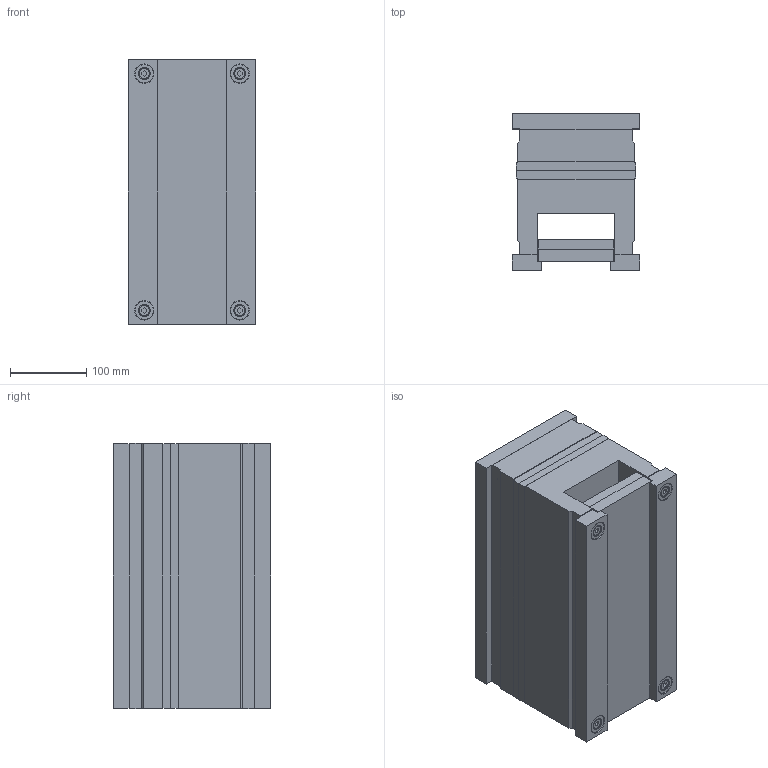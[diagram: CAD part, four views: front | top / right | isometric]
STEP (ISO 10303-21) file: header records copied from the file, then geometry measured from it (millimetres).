
FILE_DESCRIPTION (( 'STEP AP214' ), '1' );
FILE_NAME ('1565.STEP', '2002-07-10T07:50:36', ( 'Simcha Kilim' ), ( 'K. Plastics Engineering' ), 'SwSTEP 2.0', 'SolidWorks 2002025', '' );
FILE_SCHEMA (( 'AUTOMOTIVE_DESIGN' ));
Length unit declared in the file: millimetre
Products named in the file (12): 1565; ALMO (ejector plate)_1565; ALMO (hot half)_1565; ALMO (screw)_M8x90; ALMO (guide pin)_Ø14; ALMO (ejector return plate)_1565; ALMO (ejector half)_1565; ALMO (guide bush)_Ø15; ALMO (guide bush)_Ø14; ALMO (guide pin)_Ø15; ALMO (key plate)_Ø14; ALMO (screw)_M8x50
Assembly tree (28 placements, depth 2):
  1565
    ALMO (guide pin)_Ø14  x3
    ALMO (guide bush)_Ø14  x3
    ALMO (screw)_M8x50  x4
    ALMO (hot half)_1565
    ALMO (key plate)_Ø14  x8
    ALMO (screw)_M8x90  x4
    ALMO (ejector return plate)_1565
    ALMO (guide bush)_Ø15
    ALMO (guide pin)_Ø15
    ALMO (ejector plate)_1565
    ALMO (ejector half)_1565
Bounding box: 167 x 206 x 348 mm (x, y, z)
Volume: 9397675.5 mm3; surface area: 772233.5 mm2
Topology: 28 solids, 28 shells, 706 faces, 1496 edges, 924 vertices
Faces by surface type: cylinder 260, plane 254, cone 192
Entity records: 10477 total; most frequent: DIRECTION 1914, CARTESIAN_POINT 1683, ORIENTED_EDGE 1584, EDGE_CURVE 792, AXIS2_PLACEMENT_3D 729, VERTEX_POINT 498, LINE 456, VECTOR 456
